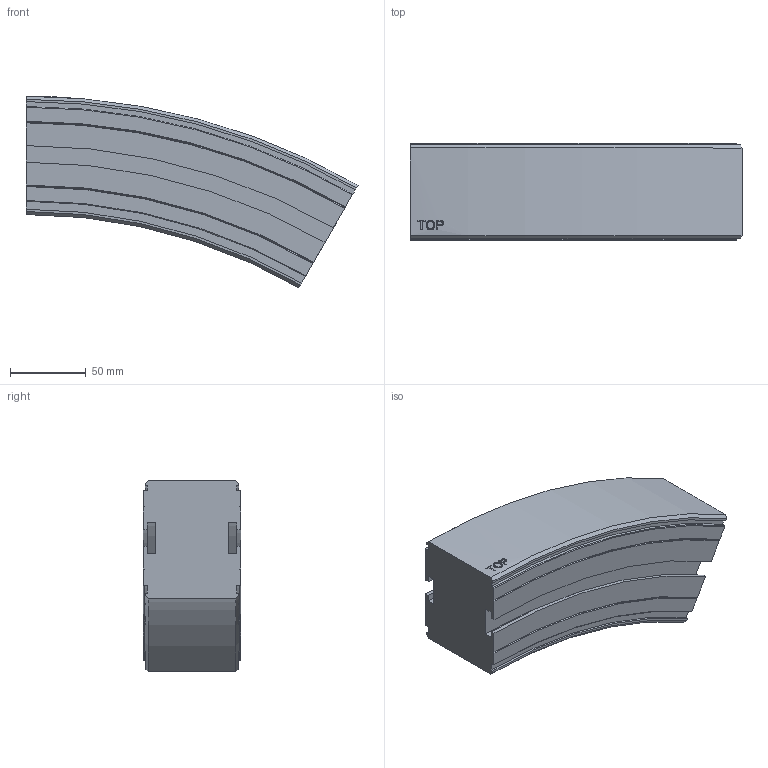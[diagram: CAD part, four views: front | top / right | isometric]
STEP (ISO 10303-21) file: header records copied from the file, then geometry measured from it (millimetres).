
FILE_DESCRIPTION((''),'2;1');
FILE_NAME('C:\Vault Klient\Projekt\Koncept konstruktion\Serie 620 Balk\620-5610_DOWN.stp','2009-11-26T15:36:24',('Mathias'),(''),'Autodesk Inventor 2010','Autodesk Inventor 2010','');
FILE_SCHEMA(('AUTOMOTIVE_DESIGN { 1 0 10303 214 1 1 1 1 }'));
Length unit declared in the file: millimetre
Products named in the file (1): 620-5610_DOWN
Bounding box: 219 x 64 x 126.23 mm (x, y, z)
Volume: 971569 mm3; surface area: 84667.5 mm2
Topology: 1 solids, 1 shells, 93 faces, 258 edges, 172 vertices
Faces by surface type: plane 40, cylinder 23, bspline 14, cone 12, torus 4
Entity records: 3390 total; most frequent: CARTESIAN_POINT 955, ORIENTED_EDGE 516, DIRECTION 472, EDGE_CURVE 258, VERTEX_POINT 172, AXIS2_PLACEMENT_3D 162, VECTOR 148, LINE 148
